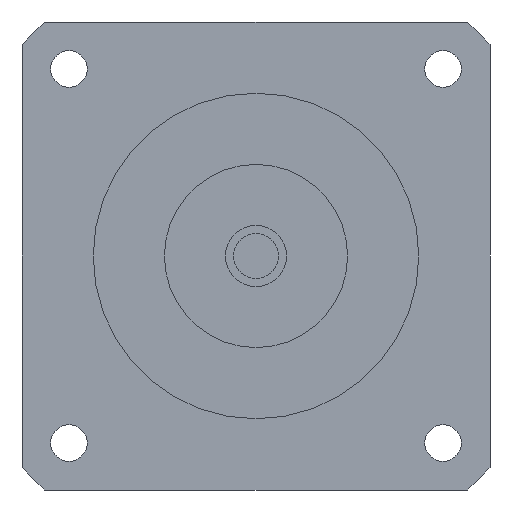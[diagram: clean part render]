
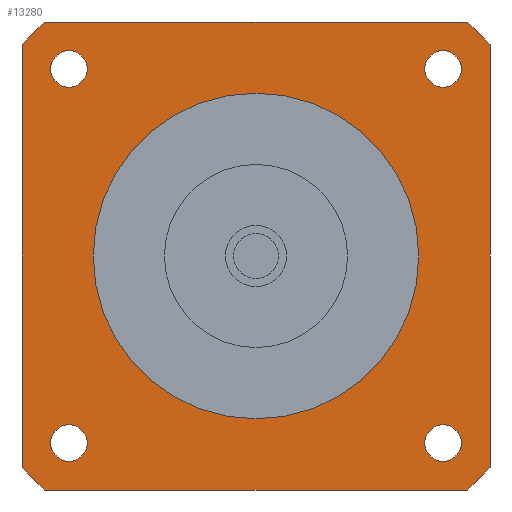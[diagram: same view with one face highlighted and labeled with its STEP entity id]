
A CAD part, left-side view. The second image highlights one B-rep face of the part: STEP entity #13280.
In plain terms, the highlighted planar face has unit normal (-1, 0, 0) as drawn and (0, 0, -1) by its records, which use the part's own axes.
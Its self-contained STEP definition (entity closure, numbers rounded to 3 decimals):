
#8700=CARTESIAN_POINT('',(57.5,-51.962,-43.2));
#8710=VERTEX_POINT('',#8700);
#8740=CARTESIAN_POINT('',(0.,0.,
-43.2));
#8750=DIRECTION('',(0.,0.,-1.));
#8760=DIRECTION('',(-1.,0.,0.));
#8770=AXIS2_PLACEMENT_3D('',#8740,#8750,#8760);
#8780=CIRCLE('',#8770,77.5);
#8790=CARTESIAN_POINT('',(51.962,-57.5,-43.2));
#8800=VERTEX_POINT('',#8790);
#8810=EDGE_CURVE('',#8710,#8800,#8780,.T.);
#9120=CARTESIAN_POINT('',(-51.962,57.5,-43.2));
#9130=VERTEX_POINT('',#9120);
#9290=CARTESIAN_POINT('',(-57.5,51.962,-43.2));
#9300=VERTEX_POINT('',#9290);
#9330=CARTESIAN_POINT('',(0.,0.,
-43.2));
#9340=DIRECTION('',(0.,0.,-1.));
#9350=DIRECTION('',(-1.,0.,0.));
#9360=AXIS2_PLACEMENT_3D('',#9330,#9340,#9350);
#9370=CIRCLE('',#9360,77.5);
#9380=EDGE_CURVE('',#9300,#9130,#9370,.T.);
#11850=CARTESIAN_POINT('',(50.462,-45.962,-43.2));
#11860=VERTEX_POINT('',#11850);
#11890=CARTESIAN_POINT('',(45.962,-45.962,-43.2));
#11900=DIRECTION('',(0.,0.,-1.));
#11910=DIRECTION('',(1.,0.,0.));
#11920=AXIS2_PLACEMENT_3D('',#11890,#11900,#11910);
#11930=CIRCLE('',#11920,4.5);
#11940=CARTESIAN_POINT('',(41.462,-45.962,-43.2));
#11950=VERTEX_POINT('',#11940);
#11960=EDGE_CURVE('',#11950,#11860,#11930,.T.);
#12080=CARTESIAN_POINT('',(0.,0.,
-43.2));
#12090=DIRECTION('',(0.,0.,-1.));
#12100=DIRECTION('',(1.,0.,0.));
#12110=AXIS2_PLACEMENT_3D('',#12080,#12090,#12100);
#12120=PLANE('',#12110);
#12130=CARTESIAN_POINT('',(45.962,45.962,-43.2));
#12140=DIRECTION('',(0.,0.,-1.));
#12150=DIRECTION('',(1.,0.,0.));
#12160=AXIS2_PLACEMENT_3D('',#12130,#12140,#12150);
#12170=CIRCLE('',#12160,4.5);
#12180=CARTESIAN_POINT('',(50.462,45.962,-43.2));
#12190=VERTEX_POINT('',#12180);
#12200=CARTESIAN_POINT('',(41.462,45.962,-43.2));
#12210=VERTEX_POINT('',#12200);
#12220=EDGE_CURVE('',#12190,#12210,#12170,.T.);
#12230=ORIENTED_EDGE('',*,*,#12220,.F.);
#12240=EDGE_CURVE('',#12210,#12190,#12170,.T.);
#12250=ORIENTED_EDGE('',*,*,#12240,.F.);
#12260=EDGE_LOOP('',(#12250,#12230));
#12270=FACE_BOUND('',#12260,.T.);
#12280=CARTESIAN_POINT('',(-45.962,45.962,-43.2));
#12290=DIRECTION('',(0.,0.,-1.));
#12300=DIRECTION('',(1.,0.,0.));
#12310=AXIS2_PLACEMENT_3D('',#12280,#12290,#12300);
#12320=CIRCLE('',#12310,4.5);
#12330=CARTESIAN_POINT('',(-41.462,45.962,-43.2));
#12340=VERTEX_POINT('',#12330);
#12350=CARTESIAN_POINT('',(-50.462,45.962,-43.2));
#12360=VERTEX_POINT('',#12350);
#12370=EDGE_CURVE('',#12340,#12360,#12320,.T.);
#12380=ORIENTED_EDGE('',*,*,#12370,.F.);
#12390=EDGE_CURVE('',#12360,#12340,#12320,.T.);
#12400=ORIENTED_EDGE('',*,*,#12390,.F.);
#12410=EDGE_LOOP('',(#12400,#12380));
#12420=FACE_BOUND('',#12410,.T.);
#12430=CARTESIAN_POINT('',(0.,0.,
-43.2));
#12440=DIRECTION('',(0.,0.,1.));
#12450=DIRECTION('',(1.,0.,0.));
#12460=AXIS2_PLACEMENT_3D('',#12430,#12440,#12450);
#12470=CIRCLE('',#12460,40.);
#12480=CARTESIAN_POINT('',(40.,0.,-43.2));
#12490=VERTEX_POINT('',#12480);
#12500=CARTESIAN_POINT('',(-40.,0.,-43.2));
#12510=VERTEX_POINT('',#12500);
#12520=EDGE_CURVE('',#12490,#12510,#12470,.T.);
#12530=ORIENTED_EDGE('',*,*,#12520,.T.);
#12540=EDGE_CURVE('',#12510,#12490,#12470,.T.);
#12550=ORIENTED_EDGE('',*,*,#12540,.T.);
#12560=EDGE_LOOP('',(#12550,#12530));
#12570=FACE_BOUND('',#12560,.T.);
#12580=CARTESIAN_POINT('',(-45.962,-45.962,-43.2));
#12590=DIRECTION('',(0.,0.,-1.));
#12600=DIRECTION('',(1.,0.,0.));
#12610=AXIS2_PLACEMENT_3D('',#12580,#12590,#12600);
#12620=CIRCLE('',#12610,4.5);
#12630=CARTESIAN_POINT('',(-41.462,-45.962,-43.2));
#12640=VERTEX_POINT('',#12630);
#12650=CARTESIAN_POINT('',(-50.462,-45.962,-43.2));
#12660=VERTEX_POINT('',#12650);
#12670=EDGE_CURVE('',#12640,#12660,#12620,.T.);
#12680=ORIENTED_EDGE('',*,*,#12670,.F.);
#12690=EDGE_CURVE('',#12660,#12640,#12620,.T.);
#12700=ORIENTED_EDGE('',*,*,#12690,.F.);
#12710=EDGE_LOOP('',(#12700,#12680));
#12720=FACE_BOUND('',#12710,.T.);
#12730=EDGE_CURVE('',#11860,#11950,#11930,.T.);
#12740=ORIENTED_EDGE('',*,*,#12730,.F.);
#12750=ORIENTED_EDGE('',*,*,#11960,.F.);
#12760=EDGE_LOOP('',(#12750,#12740));
#12770=FACE_BOUND('',#12760,.T.);
#12780=CARTESIAN_POINT('',(57.5,-57.5,-43.2));
#12790=DIRECTION('',(-1.,0.,0.));
#12800=VECTOR('',#12790,1000.);
#12810=LINE('',#12780,#12800);
#12820=CARTESIAN_POINT('',(-51.962,-57.5,-43.2));
#12830=VERTEX_POINT('',#12820);
#12840=EDGE_CURVE('',#8800,#12830,#12810,.T.);
#12850=ORIENTED_EDGE('',*,*,#12840,.T.);
#12860=ORIENTED_EDGE('',*,*,#8810,.T.);
#12870=CARTESIAN_POINT('',(57.5,57.5,-43.2));
#12880=DIRECTION('',(0.,-1.,0.));
#12890=VECTOR('',#12880,1000.);
#12900=LINE('',#12870,#12890);
#12910=CARTESIAN_POINT('',(57.5,51.962,-43.2));
#12920=VERTEX_POINT('',#12910);
#12930=EDGE_CURVE('',#12920,#8710,#12900,.T.);
#12940=ORIENTED_EDGE('',*,*,#12930,.T.);
#12950=CARTESIAN_POINT('',(0.,0.,
-43.2));
#12960=DIRECTION('',(0.,0.,-1.));
#12970=DIRECTION('',(-1.,0.,0.));
#12980=AXIS2_PLACEMENT_3D('',#12950,#12960,#12970);
#12990=CIRCLE('',#12980,77.5);
#13000=CARTESIAN_POINT('',(51.962,57.5,-43.2));
#13010=VERTEX_POINT('',#13000);
#13020=EDGE_CURVE('',#13010,#12920,#12990,.T.);
#13030=ORIENTED_EDGE('',*,*,#13020,.T.);
#13040=CARTESIAN_POINT('',(-57.5,57.5,-43.2));
#13050=DIRECTION('',(1.,0.,0.));
#13060=VECTOR('',#13050,1000.);
#13070=LINE('',#13040,#13060);
#13080=EDGE_CURVE('',#9130,#13010,#13070,.T.);
#13090=ORIENTED_EDGE('',*,*,#13080,.T.);
#13100=ORIENTED_EDGE('',*,*,#9380,.T.);
#13110=CARTESIAN_POINT('',(-57.5,-57.5,-43.2));
#13120=DIRECTION('',(0.,1.,0.));
#13130=VECTOR('',#13120,1000.);
#13140=LINE('',#13110,#13130);
#13150=CARTESIAN_POINT('',(-57.5,-51.962,-43.2));
#13160=VERTEX_POINT('',#13150);
#13170=EDGE_CURVE('',#13160,#9300,#13140,.T.);
#13180=ORIENTED_EDGE('',*,*,#13170,.T.);
#13190=CARTESIAN_POINT('',(0.,0.,
-43.2));
#13200=DIRECTION('',(0.,0.,-1.));
#13210=DIRECTION('',(-1.,0.,0.));
#13220=AXIS2_PLACEMENT_3D('',#13190,#13200,#13210);
#13230=CIRCLE('',#13220,77.5);
#13240=EDGE_CURVE('',#12830,#13160,#13230,.T.);
#13250=ORIENTED_EDGE('',*,*,#13240,.T.);
#13260=EDGE_LOOP('',(#13250,#13180,#13100,#13090,#13030,#12940,#12860,
#12850));
#13270=FACE_OUTER_BOUND('',#13260,.T.);
#13280=ADVANCED_FACE('',(#12270,#12420,#12570,#12720,#12770,#13270),
#12120,.T.);
